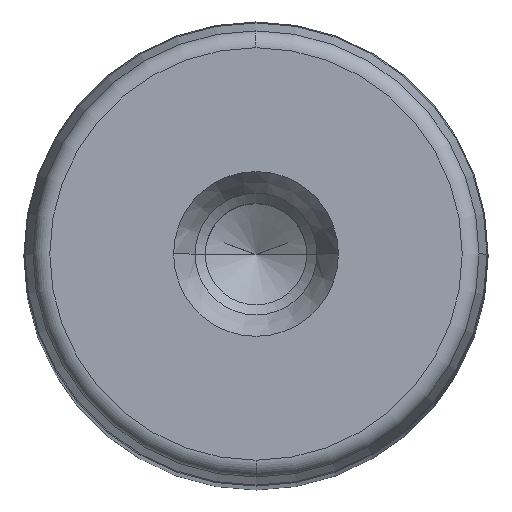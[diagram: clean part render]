
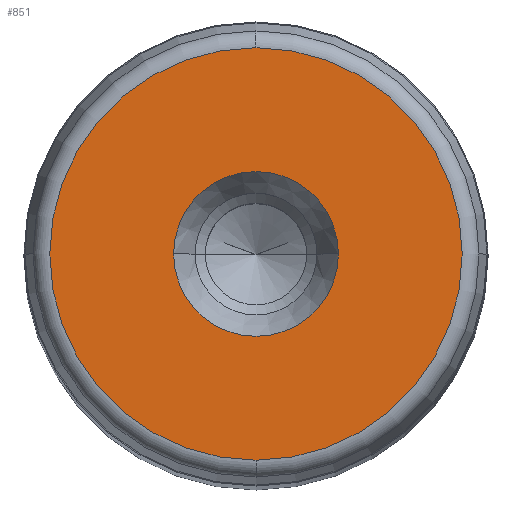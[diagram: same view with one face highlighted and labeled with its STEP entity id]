
A CAD part, top view. The second image highlights one B-rep face of the part: STEP entity #851.
In plain terms, the highlighted planar face has unit normal (0, 0, 1) as drawn and (0, 1, 0) by its records, which use the part's own axes.
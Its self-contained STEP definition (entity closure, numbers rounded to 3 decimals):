
#281=CARTESIAN_POINT('',(14.2,400.0,0.0));
#282=VERTEX_POINT('',#281);
#289=CARTESIAN_POINT('',(-14.2,400.0,0.));
#290=VERTEX_POINT('',#289);
#291=CARTESIAN_POINT('',(0.0,400.0,0.0));
#292=DIRECTION('',(0.0,1.0,0.0));
#293=DIRECTION('',(1.0,0.0,0.0));
#294=AXIS2_PLACEMENT_3D('',#291,#292,#293);
#295=CIRCLE('',#294,14.2);
#296=EDGE_CURVE('',#282,#290,#295,.T.);
#313=CARTESIAN_POINT('',(0.0,400.0,35.554));
#314=VERTEX_POINT('',#313);
#324=CARTESIAN_POINT('',(0.,400.0,-35.554));
#325=VERTEX_POINT('',#324);
#326=CARTESIAN_POINT('',(0.0,400.0,0.0));
#327=DIRECTION('',(0.0,1.0,0.0));
#328=DIRECTION('',(1.0,0.0,0.0));
#329=AXIS2_PLACEMENT_3D('',#326,#327,#328);
#330=CIRCLE('',#329,35.554);
#331=EDGE_CURVE('',#325,#314,#330,.T.);
#812=CARTESIAN_POINT('',(35.554,400.0,0.0));
#813=VERTEX_POINT('',#812);
#814=CARTESIAN_POINT('',(0.0,400.0,0.0));
#815=DIRECTION('',(0.0,1.0,0.0));
#816=DIRECTION('',(1.0,0.0,0.0));
#817=AXIS2_PLACEMENT_3D('',#814,#815,#816);
#818=CIRCLE('',#817,35.554);
#819=EDGE_CURVE('',#813,#325,#818,.T.);
#821=CARTESIAN_POINT('',(0.0,400.0,0.0));
#822=DIRECTION('',(0.0,1.0,0.0));
#823=DIRECTION('',(1.0,0.0,0.0));
#824=AXIS2_PLACEMENT_3D('',#821,#822,#823);
#825=CIRCLE('',#824,35.554);
#826=EDGE_CURVE('',#314,#813,#825,.T.);
#831=CARTESIAN_POINT('',(-39.11,400.0,-39.11));
#832=DIRECTION('',(0.0,1.0,0.0));
#833=DIRECTION('',(0.0,0.0,1.0));
#834=AXIS2_PLACEMENT_3D('',#831,#832,#833);
#835=PLANE('',#834);
#836=ORIENTED_EDGE('',*,*,#819,.T.);
#837=ORIENTED_EDGE('',*,*,#331,.T.);
#838=ORIENTED_EDGE('',*,*,#826,.T.);
#839=EDGE_LOOP('',(#836,#837,#838));
#840=FACE_OUTER_BOUND('',#839,.T.);
#841=ORIENTED_EDGE('',*,*,#296,.F.);
#842=CARTESIAN_POINT('',(0.0,400.0,0.0));
#843=DIRECTION('',(0.0,1.0,0.0));
#844=DIRECTION('',(1.0,0.0,0.0));
#845=AXIS2_PLACEMENT_3D('',#842,#843,#844);
#846=CIRCLE('',#845,14.2);
#847=EDGE_CURVE('',#290,#282,#846,.T.);
#848=ORIENTED_EDGE('',*,*,#847,.F.);
#849=EDGE_LOOP('',(#841,#848));
#850=FACE_BOUND('',#849,.T.);
#851=ADVANCED_FACE('',(#840,#850),#835,.T.);
